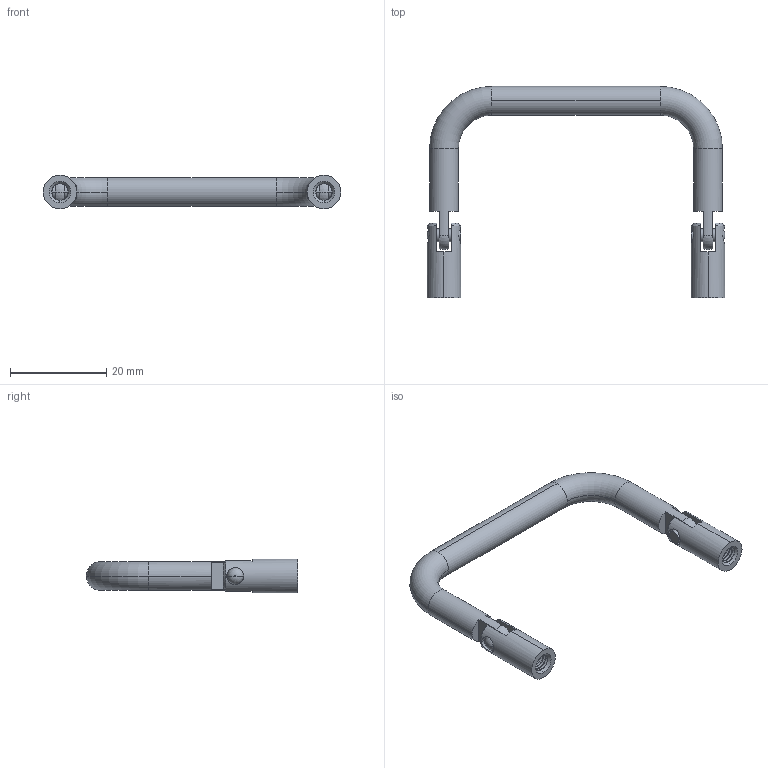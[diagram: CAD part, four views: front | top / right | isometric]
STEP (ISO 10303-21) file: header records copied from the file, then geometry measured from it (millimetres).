
FILE_DESCRIPTION (( 'STEP AP203' ), '1' );
FILE_NAME ('XG01-001-55.STEP', '2023-12-23T03:00:50', ( '' ), ( '' ), 'SwSTEP 2.0', 'SolidWorks 2020', '' );
FILE_SCHEMA (( 'CONFIG_CONTROL_DESIGN' ));
Length unit declared in the file: millimetre
Products named in the file (1): XG01-001-55
Bounding box: 62 x 44 x 7 mm (x, y, z)
Volume: 3507 mm3; surface area: 3394.6 mm2
Topology: 5 solids, 5 shells, 144 faces, 388 edges, 250 vertices
Faces by surface type: cylinder 82, plane 36, torus 8, cone 8, bspline 6, sphere 4
Entity records: 7497 total; most frequent: CARTESIAN_POINT 4119, ORIENTED_EDGE 760, DIRECTION 646, EDGE_CURVE 380, AXIS2_PLACEMENT_3D 261, VERTEX_POINT 246, EDGE_LOOP 160, ADVANCED_FACE 144
